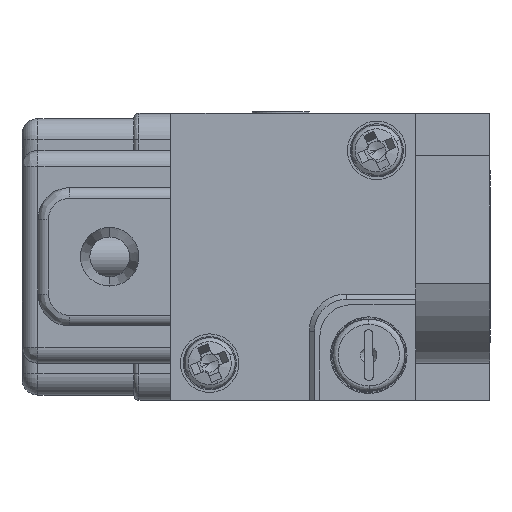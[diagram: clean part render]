
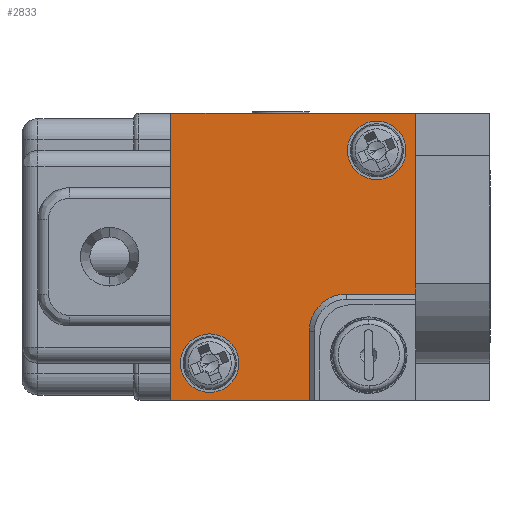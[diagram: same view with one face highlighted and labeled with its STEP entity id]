
A CAD part, left-side view. The second image highlights one B-rep face of the part: STEP entity #2833.
In plain terms, the highlighted planar face has unit normal (-1, 0, 0) as drawn and (0, 0, 1) by its records, which use the part's own axes.
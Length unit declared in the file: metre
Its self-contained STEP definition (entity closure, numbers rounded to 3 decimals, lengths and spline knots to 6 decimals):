
#96 = LINE ( 'NONE', #1423, #3077 ) ;
#237 = EDGE_CURVE ( 'NONE', #4186, #4835, #2796, .T. ) ;
#661 = VECTOR ( 'NONE', #9942, 1. ) ;
#752 = CIRCLE ( 'NONE', #8916, 0.0035 ) ;
#1026 = CARTESIAN_POINT ( 'NONE',  ( 0.00725, 0.02465, 0.006 ) ) ;
#1042 = CARTESIAN_POINT ( 'NONE',  ( -0.0135, 0.0325, 0.006 ) ) ;
#1065 = DIRECTION ( 'NONE',  ( 0., 0., 1. ) ) ;
#1209 = VERTEX_POINT ( 'NONE', #4259 ) ;
#1253 = PLANE ( 'NONE',  #11782 ) ;
#1423 = CARTESIAN_POINT ( 'NONE',  ( -0.0035, 0.0325, 0.006 ) ) ;
#1490 = CARTESIAN_POINT ( 'NONE',  ( 0.0135, 0.0325, 0.006 ) ) ;
#1503 = DIRECTION ( 'NONE',  ( 0., 1., 0. ) ) ;
#1522 = CIRCLE ( 'NONE', #7461, 0.00275 ) ;
#1990 = VERTEX_POINT ( 'NONE', #9731 ) ;
#2070 = VERTEX_POINT ( 'NONE', #11450 ) ;
#2198 = CARTESIAN_POINT ( 'NONE',  ( 0., 0.021, 0.006 ) ) ;
#2286 = VERTEX_POINT ( 'NONE', #13683 ) ;
#2470 = EDGE_CURVE ( 'NONE', #5114, #4624, #1522, .T. ) ;
#2777 = ORIENTED_EDGE ( 'NONE', *, *, #10209, .T. ) ;
#2796 = CIRCLE ( 'NONE', #8411, 0.00275 ) ;
#2833 = ADVANCED_FACE ( 'NONE', ( #4631, #7247, #9955 ), #1253, .T. ) ;
#2837 = CARTESIAN_POINT ( 'NONE',  ( 0.01, 0.02465, 0.006 ) ) ;
#2971 = CARTESIAN_POINT ( 'NONE',  ( 0., 0.044, 0.006 ) ) ;
#2979 = ORIENTED_EDGE ( 'NONE', *, *, #3225, .T. ) ;
#3005 = DIRECTION ( 'NONE',  ( -1., 0., 0. ) ) ;
#3077 = VECTOR ( 'NONE', #8118, 1. ) ;
#3225 = EDGE_CURVE ( 'NONE', #5581, #1990, #11924, .T. ) ;
#3466 = ORIENTED_EDGE ( 'NONE', *, *, #3961, .T. ) ;
#3485 = DIRECTION ( 'NONE',  ( 0., 0., 1. ) ) ;
#3492 = DIRECTION ( 'NONE',  ( 0., 0., -1. ) ) ;
#3622 = LINE ( 'NONE', #2198, #661 ) ;
#3918 = CARTESIAN_POINT ( 'NONE',  ( 0., 0.031, 0.006 ) ) ;
#3935 = DIRECTION ( 'NONE',  ( 1., 0., 0. ) ) ;
#3961 = EDGE_CURVE ( 'NONE', #6031, #5581, #10119, .T. ) ;
#4186 = VERTEX_POINT ( 'NONE', #5591 ) ;
#4214 = LINE ( 'NONE', #3918, #4553 ) ;
#4259 = CARTESIAN_POINT ( 'NONE',  ( -0.007, 0.031, 0.006 ) ) ;
#4446 = ORIENTED_EDGE ( 'NONE', *, *, #237, .F. ) ;
#4553 = VECTOR ( 'NONE', #13915, 1. ) ;
#4624 = VERTEX_POINT ( 'NONE', #10603 ) ;
#4631 = FACE_BOUND ( 'NONE', #12857, .T. ) ;
#4835 = VERTEX_POINT ( 'NONE', #13013 ) ;
#5114 = VERTEX_POINT ( 'NONE', #1026 ) ;
#5304 = CARTESIAN_POINT ( 'NONE',  ( 0.01, 0.02465, 0.006 ) ) ;
#5392 = DIRECTION ( 'NONE',  ( 0., 0., -1. ) ) ;
#5548 = ORIENTED_EDGE ( 'NONE', *, *, #13925, .F. ) ;
#5579 = DIRECTION ( 'NONE',  ( 1., 0., 0. ) ) ;
#5581 = VERTEX_POINT ( 'NONE', #6623 ) ;
#5591 = CARTESIAN_POINT ( 'NONE',  ( -0.00725, 0.04035, 0.006 ) ) ;
#5704 = ORIENTED_EDGE ( 'NONE', *, *, #7721, .T. ) ;
#5887 = CIRCLE ( 'NONE', #6409, 0.00275 ) ;
#6031 = VERTEX_POINT ( 'NONE', #12433 ) ;
#6156 = CARTESIAN_POINT ( 'NONE',  ( -0.0035, 0.0275, 0.006 ) ) ;
#6167 = EDGE_CURVE ( 'NONE', #2286, #6031, #9478, .T. ) ;
#6231 = ORIENTED_EDGE ( 'NONE', *, *, #12279, .T. ) ;
#6409 = AXIS2_PLACEMENT_3D ( 'NONE', #7764, #1065, #8913 ) ;
#6582 = CARTESIAN_POINT ( 'NONE',  ( -0.01, 0.04035, 0.006 ) ) ;
#6623 = CARTESIAN_POINT ( 'NONE',  ( -0.0135, 0.044, 0.006 ) ) ;
#6686 = DIRECTION ( 'NONE',  ( 0., 0., 1. ) ) ;
#6731 = DIRECTION ( 'NONE',  ( 1., 0., 0. ) ) ;
#6761 = VECTOR ( 'NONE', #1503, 1. ) ;
#7058 = VECTOR ( 'NONE', #3005, 1. ) ;
#7247 = FACE_BOUND ( 'NONE', #13971, .T. ) ;
#7461 = AXIS2_PLACEMENT_3D ( 'NONE', #5304, #5392, #5579 ) ;
#7721 = EDGE_CURVE ( 'NONE', #2070, #2286, #3622, .T. ) ;
#7764 = CARTESIAN_POINT ( 'NONE',  ( -0.01, 0.04035, 0.006 ) ) ;
#8090 = EDGE_LOOP ( 'NONE', ( #3466, #2979, #13534, #6231, #12802, #5704, #13511 ) ) ;
#8095 = ORIENTED_EDGE ( 'NONE', *, *, #2470, .T. ) ;
#8118 = DIRECTION ( 'NONE',  ( 0., -1., 0. ) ) ;
#8411 = AXIS2_PLACEMENT_3D ( 'NONE', #6582, #6686, #6731 ) ;
#8888 = DIRECTION ( 'NONE',  ( 0., -1., 0. ) ) ;
#8913 = DIRECTION ( 'NONE',  ( 1., 0., 0. ) ) ;
#8916 = AXIS2_PLACEMENT_3D ( 'NONE', #10251, #3492, #11407 ) ;
#9019 = VERTEX_POINT ( 'NONE', #6156 ) ;
#9097 = CARTESIAN_POINT ( 'NONE',  ( -0.0135, 0.021, 0.006 ) ) ;
#9478 = LINE ( 'NONE', #1490, #6761 ) ;
#9609 = VECTOR ( 'NONE', #8888, 1. ) ;
#9731 = CARTESIAN_POINT ( 'NONE',  ( -0.0135, 0.031, 0.006 ) ) ;
#9942 = DIRECTION ( 'NONE',  ( 1., 0., 0. ) ) ;
#9955 = FACE_OUTER_BOUND ( 'NONE', #8090, .T. ) ;
#10026 = EDGE_CURVE ( 'NONE', #9019, #2070, #96, .T. ) ;
#10119 = LINE ( 'NONE', #2971, #7058 ) ;
#10209 = EDGE_CURVE ( 'NONE', #4624, #5114, #12543, .T. ) ;
#10251 = CARTESIAN_POINT ( 'NONE',  ( -0.007, 0.0275, 0.006 ) ) ;
#10603 = CARTESIAN_POINT ( 'NONE',  ( 0.01275, 0.02465, 0.006 ) ) ;
#10736 = DIRECTION ( 'NONE',  ( 0., 0., -1. ) ) ;
#11399 = DIRECTION ( 'NONE',  ( 1., 0., 0. ) ) ;
#11407 = DIRECTION ( 'NONE',  ( 0., 1., 0. ) ) ;
#11450 = CARTESIAN_POINT ( 'NONE',  ( -0.0035, 0.021, 0.006 ) ) ;
#11782 = AXIS2_PLACEMENT_3D ( 'NONE', #9097, #3485, #11399 ) ;
#11924 = LINE ( 'NONE', #1042, #9609 ) ;
#12279 = EDGE_CURVE ( 'NONE', #1209, #9019, #752, .T. ) ;
#12433 = CARTESIAN_POINT ( 'NONE',  ( 0.0135, 0.044, 0.006 ) ) ;
#12543 = CIRCLE ( 'NONE', #13196, 0.00275 ) ;
#12802 = ORIENTED_EDGE ( 'NONE', *, *, #10026, .T. ) ;
#12857 = EDGE_LOOP ( 'NONE', ( #4446, #5548 ) ) ;
#13010 = EDGE_CURVE ( 'NONE', #1990, #1209, #4214, .T. ) ;
#13013 = CARTESIAN_POINT ( 'NONE',  ( -0.01275, 0.04035, 0.006 ) ) ;
#13196 = AXIS2_PLACEMENT_3D ( 'NONE', #2837, #10736, #3935 ) ;
#13511 = ORIENTED_EDGE ( 'NONE', *, *, #6167, .T. ) ;
#13534 = ORIENTED_EDGE ( 'NONE', *, *, #13010, .T. ) ;
#13683 = CARTESIAN_POINT ( 'NONE',  ( 0.0135, 0.021, 0.006 ) ) ;
#13915 = DIRECTION ( 'NONE',  ( 1., 0., 0. ) ) ;
#13925 = EDGE_CURVE ( 'NONE', #4835, #4186, #5887, .T. ) ;
#13971 = EDGE_LOOP ( 'NONE', ( #2777, #8095 ) ) ;
